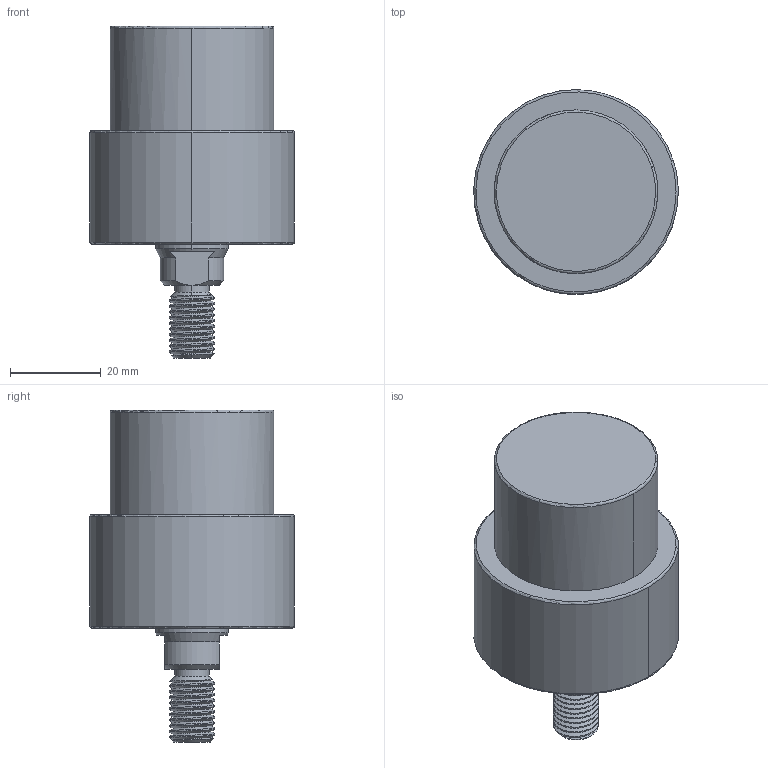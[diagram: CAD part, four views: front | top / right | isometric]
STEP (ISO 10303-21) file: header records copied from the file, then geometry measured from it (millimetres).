
FILE_DESCRIPTION((' '),'2;1');
FILE_NAME( 'TLLU-036GT-015.STEP.stp', '2025-10-24T16:37:06', (' '), ('--- Datakit www.datakit.com---'), ' Datakit CrossCadWare V2024.1 Dec 21 2023', 'Mastercam 2025', ' ');
FILE_SCHEMA(('AUTOMOTIVE_DESIGN { 1 0 10303 214 1 1 1 1 }'));
Length unit declared in the file: millimetre
Products named in the file (1): TLLU-036GT-015
Bounding box: 44.99 x 45 x 73 mm (x, y, z)
Volume: 64971 mm3; surface area: 10937.3 mm2
Topology: 1 solids, 1 shells, 87 faces, 289 edges, 205 vertices
Faces by surface type: cylinder 43, cone 25, plane 11, torus 6, bspline 2
Entity records: 7951 total; most frequent: CARTESIAN_POINT 5509, ORIENTED_EDGE 562, DIRECTION 459, EDGE_CURVE 281, VERTEX_POINT 205, AXIS2_PLACEMENT_3D 195, CIRCLE 109, B_SPLINE_CURVE_WITH_KNOTS 103
